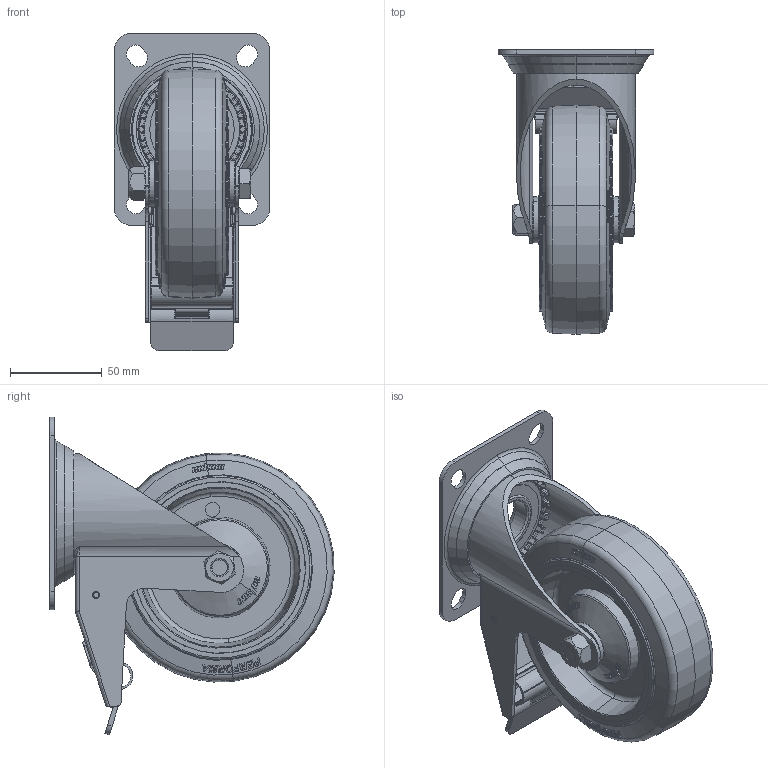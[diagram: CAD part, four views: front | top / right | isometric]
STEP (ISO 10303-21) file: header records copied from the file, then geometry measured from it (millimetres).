
FILE_DESCRIPTION (( 'STEP AP214' ), '1' );
FILE_NAME ('1.5030 Pyörä D125 H155 kääntyvä lukollinen kuulalaakerilla.STEP', '2025-09-17T07:21:24', ( '' ), ( '' ), 'SwSTEP 2.0', 'SolidWorks 2025', '' );
FILE_SCHEMA (( 'AUTOMOTIVE_DESIGN' ));
Length unit declared in the file: millimetre
Products named in the file (1): 1.5030 Pyörä D125 H155 kääntyvä lukollinen kuulalaakerilla
Bounding box: 85 x 154.92 x 173.26 mm (x, y, z)
Volume: 399208.7 mm3; surface area: 152619.1 mm2
Topology: 64 solids, 64 shells, 2861 faces, 7454 edges, 4666 vertices
Faces by surface type: plane 956, bspline 744, cylinder 487, cone 278, torus 254, sphere 142
Entity records: 154570 total; most frequent: CARTESIAN_POINT 62430, ORIENTED_EDGE 14584, DIRECTION 10655, EDGE_CURVE 7292, VERTEX_POINT 4650, AXIS2_PLACEMENT_3D 3966, EDGE_LOOP 3038, ADVANCED_FACE 2861
